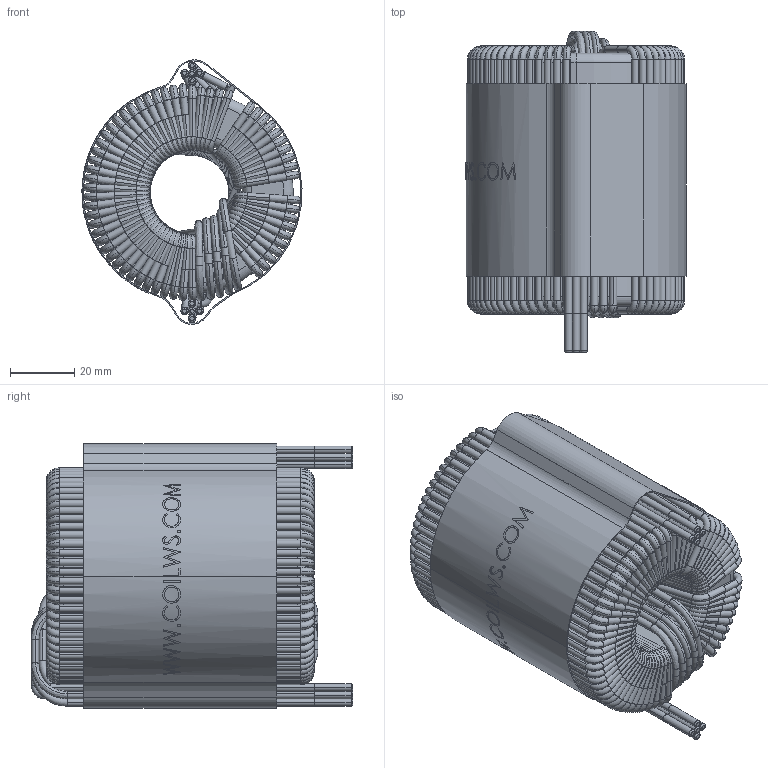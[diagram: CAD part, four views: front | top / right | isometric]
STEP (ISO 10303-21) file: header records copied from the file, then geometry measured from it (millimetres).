
FILE_DESCRIPTION (( 'STEP AP214' ), '1' );
FILE_NAME ('CWS-1MF-13028.STEP', '2021-10-08T11:54:30', ( '' ), ( '' ), 'SwSTEP 2.0', 'SolidWorks 2015', '' );
FILE_SCHEMA (( 'AUTOMOTIVE_DESIGN' ));
Length unit declared in the file: millimetre
Products named in the file (4): Core; Winding; Wrapper; CWS-1MF-13028
Assembly tree (3 placements, depth 2):
  CWS-1MF-13028
    Core
    Winding
    Wrapper
Bounding box: 68.48 x 100.06 x 82.29 mm (x, y, z)
Volume: 257960 mm3; surface area: 167577.9 mm2
Topology: 64 solids, 64 shells, 2205 faces, 5775 edges, 3679 vertices
Faces by surface type: cylinder 1027, torus 777, plane 262, bspline 139
Entity records: 83924 total; most frequent: CARTESIAN_POINT 27358, DIRECTION 13028, ORIENTED_EDGE 11550, AXIS2_PLACEMENT_3D 6031, EDGE_CURVE 5775, CIRCLE 3959, VERTEX_POINT 3679, EDGE_LOOP 2234
